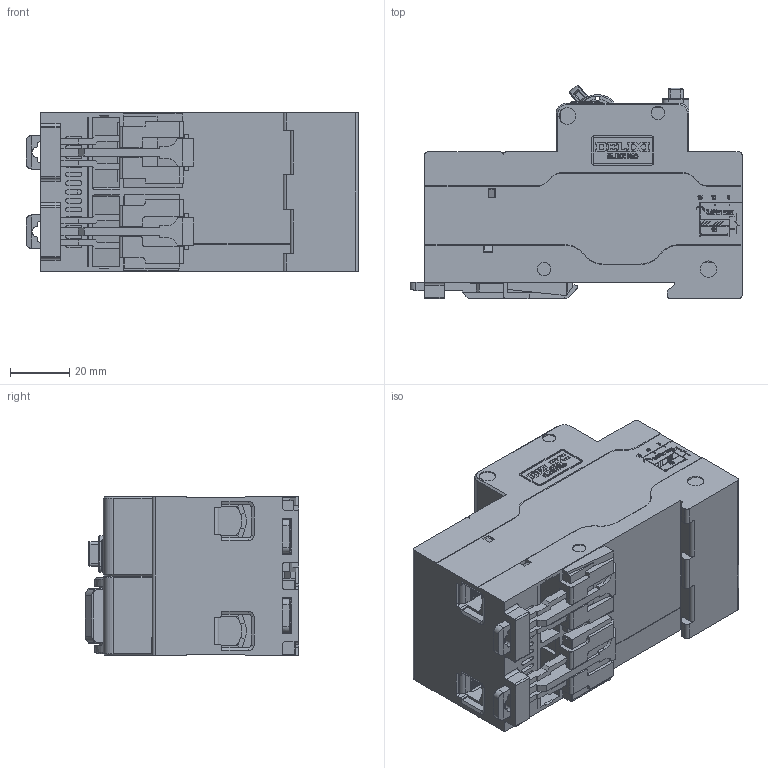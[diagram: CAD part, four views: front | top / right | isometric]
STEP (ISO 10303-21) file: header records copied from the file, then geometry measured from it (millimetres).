
FILE_DESCRIPTION((''),'2;1');
FILE_NAME('2250005800_ASM_SW0001','2019-07-26T',('xiao.wang'),(''),'PRO/ENGINEER BY PARAMETRIC TECHNOLOGY CORPORATION, 2015440','PRO/ENGINEER BY PARAMETRIC TECHNOLOGY CORPORATION, 2015440','');
FILE_SCHEMA(('CONFIG_CONTROL_DESIGN'));
Products named in the file (1): 2250005800_ASM_SW0001
Bounding box: 112.1 x 72.09 x 53.6 mm (x, y, z)
Volume: 239904.2 mm3; surface area: 85393.5 mm2
Topology: 1 solids, 10 shells, 4753 faces, 13490 edges, 8796 vertices
Faces by surface type: plane 3350, cylinder 715, extrusion 517, cone 73, torus 65, sphere 19, bspline 14
Entity records: 156747 total; most frequent: CARTESIAN_POINT 33870, ORIENTED_EDGE 26942, DIRECTION 23039, EDGE_CURVE 13471, VECTOR 11007, LINE 10490, VERTEX_POINT 8796, AXIS2_PLACEMENT_3D 6016
